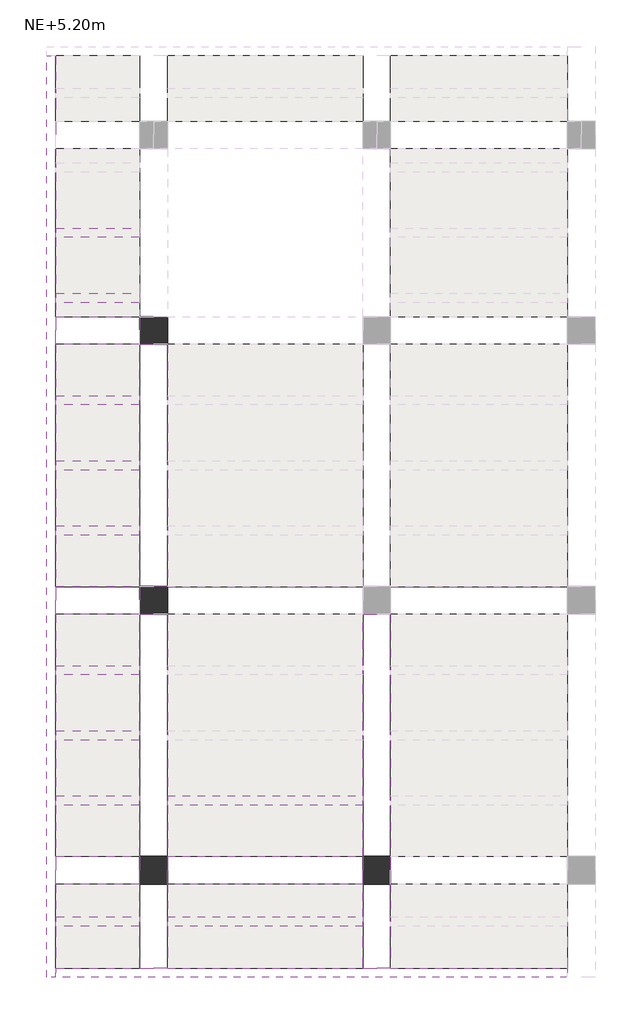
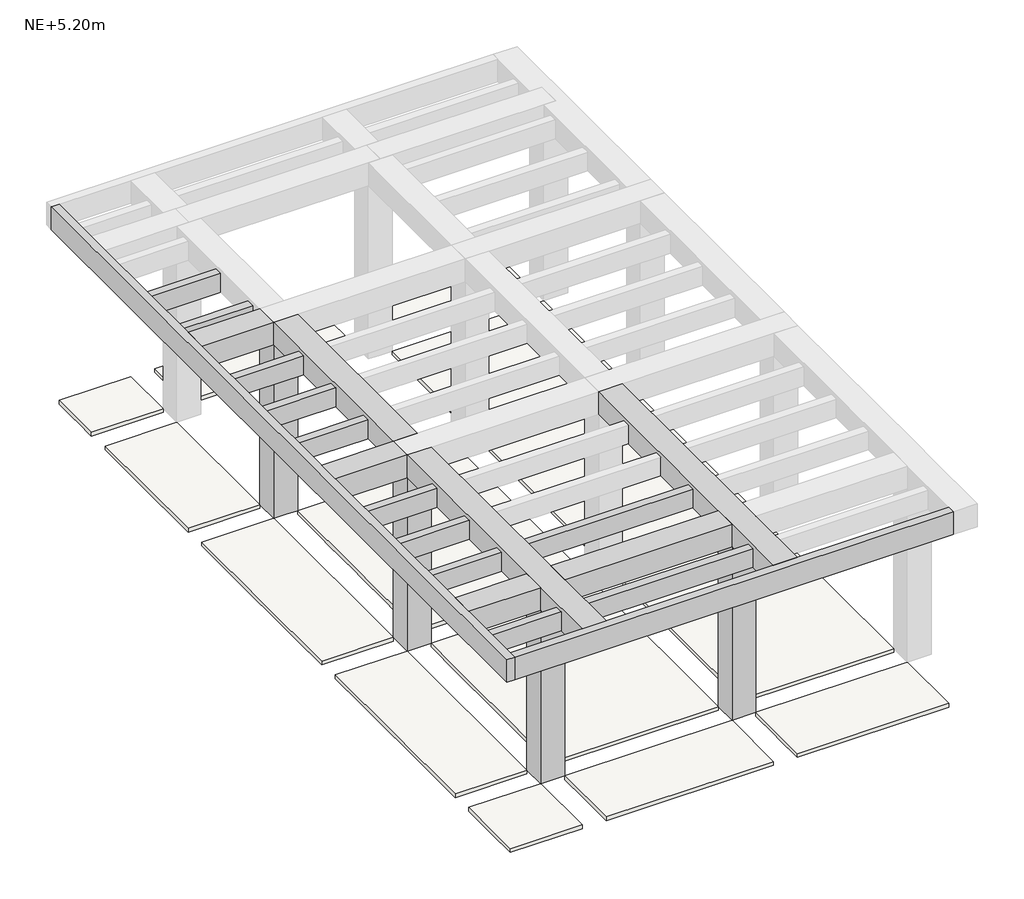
# One storey, part 1 of 2: 20 beams, 4 columns, 1 slab.
"""IFC4 building model written with IfcOpenShell, lengths in millimetres."""

import ifcopenshell
import ifcopenshell.guid

model = None  # the IFC model being written
_history = None  # IfcOwnerHistory: only IFC2X3 demands one
_inside = {}  # id of a spatial element -> (the spatial element, [elements in it])
_under = {}  # id of a project, library or spatial element -> (it, [spatial elements below it])
_declared = {}  # id of a project -> (the project, [libraries it declares])
_typed = {}  # id of a type object -> (the type object, [elements of that type])
_made_of = {}  # id of a material, layer set ... -> (it, [elements and type objects made of it])


def new_model(schema):
    """Start an empty IFC model of exactly this schema.

    Asked for "IFC4X3", IfcOpenShell would pick the latest addendum, in which some entities
    have other attributes; the version numbers below select the first issue.
    IFC2X3 requires an IfcOwnerHistory on every rooted entity: one is made here for all.
    """
    global model, _history
    if schema == "IFC4X3":
        model = ifcopenshell.file(schema_version=(4, 3, 0, 0))
    else:
        model = ifcopenshell.file(schema=schema)
    _inside.clear()
    _under.clear()
    _declared.clear()
    _typed.clear()
    _made_of.clear()
    _history = None
    if model.schema == "IFC2X3":
        org = make("IfcOrganization", Name="unknown")
        user = make(
            "IfcPersonAndOrganization",
            ThePerson=make("IfcPerson", FamilyName="unknown"),
            TheOrganization=org,
        )
        app = make(
            "IfcApplication",
            ApplicationDeveloper=org,
            Version="unknown",
            ApplicationFullName="unknown",
            ApplicationIdentifier="unknown",
        )
        _history = make(
            "IfcOwnerHistory",
            OwningUser=user,
            OwningApplication=app,
            ChangeAction="ADDED",
            CreationDate=0,
        )
    return model


def make(cls, **values):
    """One entity of the class cls with the attributes given. An attribute that is None is left unset."""
    return model.create_entity(
        cls, **{name: value for name, value in values.items() if value is not None}
    )


def rooted(cls, **values):
    """An entity with a GlobalId (a new one), such as an element, a storey or a relation."""
    return make(cls, GlobalId=ifcopenshell.guid.new(), OwnerHistory=_history, **values)


def si_unit(unit_type, name, prefix=None):
    """IfcSIUnit, for example si_unit("LENGTHUNIT", "METRE", prefix="MILLI")."""
    return make("IfcSIUnit", UnitType=unit_type, Prefix=prefix, Name=name)


def assignment(units):
    """IfcUnitAssignment: the units of a project."""
    return None if units is None else make("IfcUnitAssignment", Units=units)


def point(xyz):
    """IfcCartesianPoint."""
    return None if xyz is None else make("IfcCartesianPoint", Coordinates=xyz)


def direction(xyz):
    """IfcDirection."""
    return None if xyz is None else make("IfcDirection", DirectionRatios=xyz)


def frame(location, z_axis=None, x_axis=None):
    """IfcAxis2Placement3D, a coordinate frame: its origin and axes. An axis left out is left unset."""
    return make(
        "IfcAxis2Placement3D",
        Location=point(location),
        Axis=direction(z_axis),
        RefDirection=direction(x_axis),
    )


def origin():
    """The frame at (0, 0, 0) with its axes left unset."""
    return frame((0.0, 0.0, 0.0))


def place(relative_to, where):
    """IfcLocalPlacement: puts the frame where relative to a parent placement (None: the world)."""
    return make(
        "IfcLocalPlacement", PlacementRelTo=relative_to, RelativePlacement=where
    )


def context(
    kind, dimensions, precision=None, world=None, true_north=None, identifier=None
):
    """IfcGeometricRepresentationContext, for example the 3D "Model" context."""
    return make(
        "IfcGeometricRepresentationContext",
        ContextIdentifier=identifier,
        ContextType=kind,
        CoordinateSpaceDimension=dimensions,
        Precision=precision,
        WorldCoordinateSystem=world,
        TrueNorth=true_north,
    )


def project(units=None, contexts=None):
    """IfcProject with its units and contexts."""
    return rooted(
        "IfcProject",
        Name="project",
        RepresentationContexts=contexts,
        UnitsInContext=assignment(units),
    )


def spatial(cls, under=None, at=None, **own):
    """A site, building, storey or space (cls), placed at a placement, below another one or the project."""
    s = rooted(cls, ObjectPlacement=at, **own)
    if under is not None:
        _under.setdefault(under.id(), (under, []))[1].append(s)
    return s


def polyline(points):
    """IfcPolyline through the points."""
    return make("IfcPolyline", Points=[point(p) for p in points])


def outline(outer, holes=None, kind="AREA"):
    """IfcArbitraryClosedProfileDef: a profile drawn as a closed curve; with holes, ...WithVoids."""
    if holes is None:
        return make("IfcArbitraryClosedProfileDef", ProfileType=kind, OuterCurve=outer)
    return make(
        "IfcArbitraryProfileDefWithVoids",
        ProfileType=kind,
        OuterCurve=outer,
        InnerCurves=holes,
    )


def extrude(swept, where, along, depth):
    """IfcExtrudedAreaSolid: the profile swept, set in the frame where, extruded along a direction by depth."""
    return make(
        "IfcExtrudedAreaSolid",
        SweptArea=swept,
        Position=where,
        ExtrudedDirection=direction(along),
        Depth=depth,
    )


def faces_of(points, faces, orient=None, outer=None):
    """IfcFace entities. A face is a list of loops; a loop is a list of indices into points, from 0.

    orient and outer hold one flag for each loop. By default every Orientation is true, the
    first loop of a face is its IfcFaceOuterBound and the others are IfcFaceBound.
    """
    made = []
    for i, loops in enumerate(faces):
        bounds = []
        for j, loop in enumerate(loops):
            is_outer = j == 0 if outer is None else outer[i][j]
            bounds.append(
                make(
                    "IfcFaceOuterBound" if is_outer else "IfcFaceBound",
                    Bound=make("IfcPolyLoop", Polygon=[points[k] for k in loop]),
                    Orientation=True if orient is None else orient[i][j],
                )
            )
        made.append(make("IfcFace", Bounds=bounds))
    return made


def faceted_brep(points, faces, orient=None, outer=None, voids=None):
    """IfcFacetedBrep: a solid bounded by flat faces; with voids (closed shells), ...WithVoids."""
    shared = [point(p) for p in points]
    hull = make("IfcClosedShell", CfsFaces=faces_of(shared, faces, orient, outer))
    if voids is None:
        return make("IfcFacetedBrep", Outer=hull)
    return make(
        "IfcFacetedBrepWithVoids",
        Outer=hull,
        Voids=[
            make(cls, CfsFaces=faces_of(shared, fs, o, b)) for cls, fs, o, b in voids
        ],
    )


def shape(context_of_items, identifier, shape_type, items):
    """IfcShapeRepresentation: the items that make up one representation, for example the "Body"."""
    return make(
        "IfcShapeRepresentation",
        ContextOfItems=context_of_items,
        RepresentationIdentifier=identifier,
        RepresentationType=shape_type,
        Items=items,
    )


def made_of(thing, what):
    """Note that an element or type object is made of a material, layer set ...; save() writes the relation."""
    if what is not None:
        _made_of.setdefault(what.id(), (what, []))[1].append(thing)
    return thing


def element(
    cls,
    number,
    at=None,
    inside=None,
    cuts=None,
    type_object=None,
    material=None,
    context=None,
    identifier="Body",
    shape_type=None,
    held_by="IfcProductDefinitionShape",
    body=None,
    shapes=None,
    **own,
):
    """One element of the class cls, such as IfcWall. Its Tag is "e" and its number.

    at: its placement. inside: the storey or other place that contains it. cuts: it is an
    opening in that element (IfcRelVoidsElement). A single representation is given by context,
    identifier, shape_type and body (its items); several are given by shapes. held_by: the class
    of the entity that holds the representations. save() writes the other relations.
    """
    e = rooted(cls, Tag="e%d" % number, ObjectPlacement=at, **own)
    if body is not None:
        shapes = [shape(context, identifier, shape_type, body)]
    if shapes is not None:
        e.Representation = make(held_by, Representations=shapes)
    if inside is not None:
        _inside.setdefault(inside.id(), (inside, []))[1].append(e)
    if cuts is not None:
        rooted(
            "IfcRelVoidsElement", RelatingBuildingElement=cuts, RelatedOpeningElement=e
        )
    if type_object is not None:
        _typed.setdefault(type_object.id(), (type_object, []))[1].append(e)
    return made_of(e, material)


def aggregate(whole, parts):
    """IfcRelAggregates: a whole, such as a stair, and the parts it consists of."""
    return rooted("IfcRelAggregates", RelatingObject=whole, RelatedObjects=parts)


def save(model, path):
    """Write the relations noted so far, then the file.

    IfcRelAggregates (storeys below a building ...), IfcRelContainedInSpatialStructure (elements
    in a storey), IfcRelDefinesByType, IfcRelAssociatesMaterial and IfcRelDeclares: one each for
    every whole, place, type object, material and project.
    """
    for whole, parts in _under.values():
        aggregate(whole, parts)
    for where, things in _inside.values():
        rooted(
            "IfcRelContainedInSpatialStructure",
            RelatedElements=things,
            RelatingStructure=where,
        )
    for kind, things in _typed.values():
        rooted("IfcRelDefinesByType", RelatedObjects=things, RelatingType=kind)
    for what, things in _made_of.values():
        rooted("IfcRelAssociatesMaterial", RelatedObjects=things, RelatingMaterial=what)
    for by, libraries in _declared.values():
        rooted("IfcRelDeclares", RelatingContext=by, RelatedDefinitions=libraries)
    model.write(path)


model = new_model("IFC4")

# Units and contexts
model_context = context("Model", 3, world=origin())
ifc_project = project(units=[si_unit("LENGTHUNIT", "METRE", prefix="MILLI")], contexts=[model_context])

# Site, building, storey
site = spatial("IfcSite", under=ifc_project)
building = spatial("IfcBuilding", under=site)
storey = spatial("IfcBuildingStorey", under=building, Name="NE+5.20m", Elevation=5200.0)

# Beams
placement = place(None, origin())
element("IfcBeam", 1, ObjectType="Hormigón-Viga rectangular : VA (0.30x0.30m)", at=placement, inside=storey, context=model_context, shape_type="Brep", body=[
    faceted_brep([(-1047.6811082, -1337.1867862, 7800.0), (-1047.6811082, -1037.1867862, 7800.0), (-1947.6811082, -1037.1867862, 7800.0), (-1947.6811082, -1337.1867862, 7800.0), (-1047.6811082, -1037.1867862, 7750.0), (-1047.6811082, -1037.1867862, 7500.0), (-1947.6811082, -1037.1867862, 7500.0), (-1947.6811082, -1037.1867862, 7750.0), (-1047.6811082, -1337.1867862, 7500.0), (-1947.6811082, -1337.1867862, 7500.0), (-1947.6811082, -1337.1867862, 7750.0), (-1047.6811082, -1337.1867862, 7750.0)], [[[0, 1, 2, 3]], [[2, 1, 4, 5, 6, 7]], [[5, 8, 9, 6]], [[0, 3, 10, 9, 8, 11]], [[1, 0, 11, 8, 5, 4]], [[3, 2, 7, 6, 9, 10]]]),
])
element("IfcBeam", 2, ObjectType="Hormigón-Viga rectangular : VA (0.30x0.30m)", at=placement, inside=storey, context=model_context, shape_type="Brep", body=[
    faceted_brep([(-1047.6811082, -4237.1867862, 7800.0), (-1047.6811082, -3937.1867862, 7800.0), (-1947.6811082, -3937.1867862, 7800.0), (-1947.6811082, -4237.1867862, 7800.0), (-1047.6811082, -3937.1867862, 7750.0), (-1047.6811082, -3937.1867862, 7500.0), (-1947.6811082, -3937.1867862, 7500.0), (-1947.6811082, -3937.1867862, 7750.0), (-1047.6811082, -4237.1867862, 7500.0), (-1947.6811082, -4237.1867862, 7500.0), (-1947.6811082, -4237.1867862, 7750.0), (-1047.6811082, -4237.1867862, 7750.0)], [[[0, 1, 2, 3]], [[2, 1, 4, 5, 6, 7]], [[5, 8, 9, 6]], [[0, 3, 10, 9, 8, 11]], [[1, 0, 11, 8, 5, 4]], [[3, 2, 7, 6, 9, 10]]]),
])
element("IfcBeam", 3, ObjectType="Hormigón-Viga rectangular : VA (0.30x0.30m)", at=placement, inside=storey, context=model_context, shape_type="Brep", body=[
    faceted_brep([(1352.3188918, -7137.1867862, 7800.0), (1352.3188918, -6837.1867862, 7800.0), (-747.6811082, -6837.1867862, 7800.0), (-747.6811082, -7137.1867862, 7800.0), (1352.3188918, -6837.1867862, 7750.0), (1352.3188918, -6837.1867862, 7500.0), (-747.6811082, -6837.1867862, 7500.0), (-747.6811082, -6837.1867862, 7750.0), (1352.3188918, -7137.1867862, 7500.0), (-747.6811082, -7137.1867862, 7500.0), (-747.6811082, -7137.1867862, 7750.0), (1352.3188918, -7137.1867862, 7750.0)], [[[0, 1, 2, 3]], [[2, 1, 4, 5, 6, 7]], [[5, 8, 9, 6]], [[0, 3, 10, 9, 8, 11]], [[1, 0, 11, 8, 5, 4]], [[3, 2, 7, 6, 9, 10]]]),
])
element("IfcBeam", 4, ObjectType="Hormigón-Viga rectangular : VA (0.30x0.30m)", at=placement, inside=storey, context=model_context, shape_type="Brep", body=[
    faceted_brep([(-1047.6811082, -7137.1867862, 7800.0), (-1047.6811082, -6837.1867862, 7800.0), (-1947.6811082, -6837.1867862, 7800.0), (-1947.6811082, -7137.1867862, 7800.0), (-1047.6811082, -6837.1867862, 7750.0), (-1047.6811082, -6837.1867862, 7500.0), (-1947.6811082, -6837.1867862, 7500.0), (-1947.6811082, -6837.1867862, 7750.0), (-1047.6811082, -7137.1867862, 7500.0), (-1947.6811082, -7137.1867862, 7500.0), (-1947.6811082, -7137.1867862, 7750.0), (-1047.6811082, -7137.1867862, 7750.0)], [[[0, 1, 2, 3]], [[2, 1, 4, 5, 6, 7]], [[5, 8, 9, 6]], [[0, 3, 10, 9, 8, 11]], [[1, 0, 11, 8, 5, 4]], [[3, 2, 7, 6, 9, 10]]]),
])
element("IfcBeam", 5, ObjectType="Hormigón-Viga rectangular : VA (0.30x0.30m)", at=placement, inside=storey, context=model_context, shape_type="Brep", body=[
    faceted_brep([(1652.3188918, -4237.1867862, 7800.0), (1352.3188918, -4237.1867862, 7800.0), (1352.3188918, -6837.1867862, 7800.0), (1352.3188918, -7137.1867862, 7800.0), (1352.3188918, -8037.1867862, 7800.0), (1652.3188918, -8037.1867862, 7800.0), (1652.3188918, -7137.1867862, 7800.0), (1652.3188918, -6837.1867862, 7800.0), (1352.3188918, -4237.1867862, 7500.0), (1352.3188918, -4787.1867862, 7500.0), (1352.3188918, -4887.1867862, 7500.0), (1352.3188918, -5487.1867862, 7500.0), (1352.3188918, -5587.1867862, 7500.0), (1352.3188918, -6187.1867862, 7500.0), (1352.3188918, -6287.1867862, 7500.0), (1352.3188918, -6837.1867862, 7500.0), (1352.3188918, -7137.1867862, 7500.0), (1352.3188918, -7487.1867862, 7500.0), (1352.3188918, -7587.1867862, 7500.0), (1352.3188918, -8037.1867862, 7500.0), (1352.3188918, -8037.1867862, 7750.0), (1352.3188918, -4237.1867862, 7750.0), (1652.3188918, -4237.1867862, 7500.0), (1652.3188918, -4787.1867862, 7500.0), (1652.3188918, -4887.1867862, 7500.0), (1652.3188918, -5487.1867862, 7500.0), (1652.3188918, -5587.1867862, 7500.0), (1652.3188918, -6187.1867862, 7500.0), (1652.3188918, -6287.1867862, 7500.0), (1652.3188918, -6837.1867862, 7500.0), (1652.3188918, -7137.1867862, 7500.0), (1652.3188918, -7487.1867862, 7500.0), (1652.3188918, -7587.1867862, 7500.0), (1652.3188918, -8037.1867862, 7500.0), (1652.3188918, -4237.1867862, 7750.0), (1652.3188918, -8037.1867862, 7750.0)], [[[0, 1, 2, 3, 4, 5, 6, 7]], [[8, 9, 10, 11, 12, 13, 14, 15, 16, 17, 18, 19, 20, 4, 3, 2, 1, 21]], [[8, 22, 23, 24, 25, 26, 27, 28, 29, 30, 31, 32, 33, 19, 18, 17, 16, 15, 14, 13, 12, 11, 10, 9]], [[33, 32, 31, 30, 29, 28, 27, 26, 25, 24, 23, 22, 34, 0, 7, 6, 5, 35]], [[1, 0, 34, 22, 8, 21]], [[5, 4, 20, 19, 33, 35]]]),
])
element("IfcBeam", 6, ObjectType="Hormigón-Viga rectangular : VA (0.30x0.30m)", at=placement, inside=storey, context=model_context, shape_type="Brep", body=[
    faceted_brep([(-747.6811082, -1337.1867862, 7800.0), (-1047.6811082, -1337.1867862, 7800.0), (-1047.6811082, -3937.1867862, 7800.0), (-747.6811082, -3937.1867862, 7800.0), (-1047.6811082, -1337.1867862, 7750.0), (-1047.6811082, -1337.1867862, 7500.0), (-1047.6811082, -1887.1867862, 7500.0), (-1047.6811082, -1987.1867862, 7500.0), (-1047.6811082, -2587.1867862, 7500.0), (-1047.6811082, -2687.1867862, 7500.0), (-1047.6811082, -3287.1867862, 7500.0), (-1047.6811082, -3387.1867862, 7500.0), (-1047.6811082, -3937.1867862, 7500.0), (-1047.6811082, -3937.1867862, 7750.0), (-747.6811082, -1337.1867862, 7500.0), (-747.6811082, -1887.1867862, 7500.0), (-747.6811082, -1987.1867862, 7500.0), (-747.6811082, -2587.1867862, 7500.0), (-747.6811082, -2687.1867862, 7500.0), (-747.6811082, -3287.1867862, 7500.0), (-747.6811082, -3387.1867862, 7500.0), (-747.6811082, -3937.1867862, 7500.0), (-747.6811082, -3937.1867862, 7750.0), (-747.6811082, -1337.1867862, 7750.0)], [[[0, 1, 2, 3]], [[2, 1, 4, 5, 6, 7, 8, 9, 10, 11, 12, 13]], [[5, 14, 15, 16, 17, 18, 19, 20, 21, 12, 11, 10, 9, 8, 7, 6]], [[0, 3, 22, 21, 20, 19, 18, 17, 16, 15, 14, 23]], [[1, 0, 23, 14, 5, 4]], [[3, 2, 13, 12, 21, 22]]]),
])
element("IfcBeam", 7, ObjectType="Hormigón-Viga rectangular : VA (0.30x0.30m)", at=placement, inside=storey, context=model_context, shape_type="Brep", body=[
    faceted_brep([(-747.6811082, -4237.1867862, 7800.0), (-1047.6811082, -4237.1867862, 7800.0), (-1047.6811082, -6837.1867862, 7800.0), (-1047.6811082, -7137.1867862, 7800.0), (-1047.6811082, -8037.1867862, 7800.0), (-747.6811082, -8037.1867862, 7800.0), (-747.6811082, -7137.1867862, 7800.0), (-747.6811082, -6837.1867862, 7800.0), (-1047.6811082, -4237.1867862, 7500.0), (-1047.6811082, -4787.1867862, 7500.0), (-1047.6811082, -4887.1867862, 7500.0), (-1047.6811082, -5487.1867862, 7500.0), (-1047.6811082, -5587.1867862, 7500.0), (-1047.6811082, -6187.1867862, 7500.0), (-1047.6811082, -6287.1867862, 7500.0), (-1047.6811082, -6837.1867862, 7500.0), (-1047.6811082, -7137.1867862, 7500.0), (-1047.6811082, -7487.1867862, 7500.0), (-1047.6811082, -7587.1867862, 7500.0), (-1047.6811082, -8037.1867862, 7500.0), (-1047.6811082, -8037.1867862, 7750.0), (-1047.6811082, -4237.1867862, 7750.0), (-747.6811082, -4237.1867862, 7500.0), (-747.6811082, -4787.1867862, 7500.0), (-747.6811082, -4887.1867862, 7500.0), (-747.6811082, -5487.1867862, 7500.0), (-747.6811082, -5587.1867862, 7500.0), (-747.6811082, -6187.1867862, 7500.0), (-747.6811082, -6287.1867862, 7500.0), (-747.6811082, -6837.1867862, 7500.0), (-747.6811082, -7137.1867862, 7500.0), (-747.6811082, -7487.1867862, 7500.0), (-747.6811082, -7587.1867862, 7500.0), (-747.6811082, -8037.1867862, 7500.0), (-747.6811082, -4237.1867862, 7750.0), (-747.6811082, -8037.1867862, 7750.0)], [[[0, 1, 2, 3, 4, 5, 6, 7]], [[8, 9, 10, 11, 12, 13, 14, 15, 16, 17, 18, 19, 20, 4, 3, 2, 1, 21]], [[8, 22, 23, 24, 25, 26, 27, 28, 29, 30, 31, 32, 33, 19, 18, 17, 16, 15, 14, 13, 12, 11, 10, 9]], [[33, 32, 31, 30, 29, 28, 27, 26, 25, 24, 23, 22, 34, 0, 7, 6, 5, 35]], [[1, 0, 34, 22, 8, 21]], [[5, 4, 20, 19, 33, 35]]]),
])
element("IfcBeam", 8, ObjectType="Hormigón-Viga rectangular : VB (0.10x0.30m)", at=placement, inside=storey, context=model_context, shape_type="Brep", body=[
    faceted_brep([(-2047.6811082, -8137.1867862, 7800.0), (-1947.6811082, -8137.1867862, 7800.0), (-1947.6811082, -8037.1867862, 7800.0), (-1947.6811082, -7137.1867862, 7800.0), (-1947.6811082, -6837.1867862, 7800.0), (-1947.6811082, -4237.1867862, 7800.0), (-1947.6811082, -3937.1867862, 7800.0), (-1947.6811082, -1337.1867862, 7800.0), (-1947.6811082, -1037.1867862, 7800.0), (-1947.6811082, 762.8132138, 7800.0), (-1947.6811082, 1062.8132138, 7800.0), (-1947.6811082, 1762.8132138, 7800.0), (-2047.6811082, 1762.8132138, 7800.0), (-2047.6811082, -8137.1867862, 7500.0), (-2047.6811082, 1762.8132138, 7500.0), (-1947.6811082, -8137.1867862, 7500.0), (-1947.6811082, 1762.8132138, 7500.0), (-1947.6811082, 1412.8132138, 7500.0), (-1947.6811082, 1312.8132138, 7500.0), (-1947.6811082, 1062.8132138, 7500.0), (-1947.6811082, 762.8132138, 7500.0), (-1947.6811082, 612.8132138, 7500.0), (-1947.6811082, 512.8132138, 7500.0), (-1947.6811082, -87.1867862, 7500.0), (-1947.6811082, -187.1867862, 7500.0), (-1947.6811082, -787.1867862, 7500.0), (-1947.6811082, -887.1867862, 7500.0), (-1947.6811082, -1037.1867862, 7500.0), (-1947.6811082, -1337.1867862, 7500.0), (-1947.6811082, -1887.1867862, 7500.0), (-1947.6811082, -1987.1867862, 7500.0), (-1947.6811082, -2587.1867862, 7500.0), (-1947.6811082, -2687.1867862, 7500.0), (-1947.6811082, -3287.1867862, 7500.0), (-1947.6811082, -3387.1867862, 7500.0), (-1947.6811082, -3937.1867862, 7500.0), (-1947.6811082, -4237.1867862, 7500.0), (-1947.6811082, -4787.1867862, 7500.0), (-1947.6811082, -4887.1867862, 7500.0), (-1947.6811082, -5487.1867862, 7500.0), (-1947.6811082, -5587.1867862, 7500.0), (-1947.6811082, -6187.1867862, 7500.0), (-1947.6811082, -6287.1867862, 7500.0), (-1947.6811082, -6837.1867862, 7500.0), (-1947.6811082, -7137.1867862, 7500.0), (-1947.6811082, -7487.1867862, 7500.0), (-1947.6811082, -7587.1867862, 7500.0), (-1947.6811082, -8037.1867862, 7500.0), (-1947.6811082, 1762.8132138, 7750.0)], [[[0, 1, 2, 3, 4, 5, 6, 7, 8, 9, 10, 11, 12]], [[13, 0, 12, 14]], [[15, 13, 14, 16, 17, 18, 19, 20, 21, 22, 23, 24, 25, 26, 27, 28, 29, 30, 31, 32, 33, 34, 35, 36, 37, 38, 39, 40, 41, 42, 43, 44, 45, 46, 47]], [[1, 15, 47, 46, 45, 44, 43, 42, 41, 40, 39, 38, 37, 36, 35, 34, 33, 32, 31, 30, 29, 28, 27, 26, 25, 24, 23, 22, 21, 20, 19, 18, 17, 16, 48, 11, 10, 9, 8, 7, 6, 5, 4, 3, 2]], [[12, 11, 48, 16, 14]], [[1, 0, 13, 15]]]),
])
element("IfcBeam", 9, ObjectType="Hormigón-Viga rectangular : VB (0.10x0.30m)", at=placement, inside=storey, context=model_context, shape_type="Brep", body=[
    faceted_brep([(-1947.6811082, -8037.1867862, 7800.0), (-1947.6811082, -8137.1867862, 7800.0), (3552.3188918, -8137.1867862, 7800.0), (3552.3188918, -8037.1867862, 7800.0), (1652.3188918, -8037.1867862, 7800.0), (1352.3188918, -8037.1867862, 7800.0), (-747.6811082, -8037.1867862, 7800.0), (-1047.6811082, -8037.1867862, 7800.0), (-1947.6811082, -8137.1867862, 7500.0), (3552.3188918, -8137.1867862, 7500.0), (-1947.6811082, -8037.1867862, 7500.0), (-1047.6811082, -8037.1867862, 7500.0), (-747.6811082, -8037.1867862, 7500.0), (1352.3188918, -8037.1867862, 7500.0), (1652.3188918, -8037.1867862, 7500.0), (3552.3188918, -8037.1867862, 7500.0), (-1947.6811082, -8037.1867862, 7750.0), (3552.3188918, -8037.1867862, 7750.0)], [[[0, 1, 2, 3, 4, 5, 6, 7]], [[1, 8, 9, 2]], [[8, 10, 11, 12, 13, 14, 15, 9]], [[10, 16, 0, 7, 6, 5, 4, 3, 17, 15, 14, 13, 12, 11]], [[1, 0, 16, 10, 8]], [[3, 2, 9, 15, 17]]]),
])
element("IfcBeam", 10, ObjectType="Hormigón-Viga rectangular : VT (0.10x0.30m)", at=placement, inside=storey, context=model_context, shape_type="SweptSolid", body=[
    extrude(outline(polyline([(1352.3188918, -7487.1867862), (1352.3188918, -7587.1867862), (-747.6811082, -7587.1867862), (-747.6811082, -7487.1867862), (1352.3188918, -7487.1867862)])), frame((0.0, 0.0, 7500.0), z_axis=(0.0, 0.0, 1.0), x_axis=(1.0, 0.0, 0.0)), (0.0, 0.0, 1.0), 250.0),
])
element("IfcBeam", 11, ObjectType="Hormigón-Viga rectangular : VT (0.10x0.30m)", at=placement, inside=storey, context=model_context, shape_type="SweptSolid", body=[
    extrude(outline(polyline([(-1047.6811082, -7487.1867862), (-1047.6811082, -7587.1867862), (-1947.6811082, -7587.1867862), (-1947.6811082, -7487.1867862), (-1047.6811082, -7487.1867862)])), frame((0.0, 0.0, 7500.0), z_axis=(0.0, 0.0, 1.0), x_axis=(1.0, 0.0, 0.0)), (0.0, 0.0, 1.0), 250.0),
])
element("IfcBeam", 12, ObjectType="Hormigón-Viga rectangular : VT (0.10x0.30m)", at=placement, inside=storey, context=model_context, shape_type="SweptSolid", body=[
    extrude(outline(polyline([(1352.3188918, -6187.1867862), (1352.3188918, -6287.1867862), (-747.6811082, -6287.1867862), (-747.6811082, -6187.1867862), (1352.3188918, -6187.1867862)])), frame((0.0, 0.0, 7500.0), z_axis=(0.0, 0.0, 1.0), x_axis=(1.0, 0.0, 0.0)), (0.0, 0.0, 1.0), 250.0),
])
element("IfcBeam", 13, ObjectType="Hormigón-Viga rectangular : VT (0.10x0.30m)", at=placement, inside=storey, context=model_context, shape_type="SweptSolid", body=[
    extrude(outline(polyline([(-1047.6811082, -6187.1867862), (-1047.6811082, -6287.1867862), (-1947.6811082, -6287.1867862), (-1947.6811082, -6187.1867862), (-1047.6811082, -6187.1867862)])), frame((0.0, 0.0, 7500.0), z_axis=(0.0, 0.0, 1.0), x_axis=(1.0, 0.0, 0.0)), (0.0, 0.0, 1.0), 250.0),
])
element("IfcBeam", 14, ObjectType="Hormigón-Viga rectangular : VT (0.10x0.30m)", at=placement, inside=storey, context=model_context, shape_type="SweptSolid", body=[
    extrude(outline(polyline([(-1047.6811082, -5487.1867862), (-1047.6811082, -5587.1867862), (-1947.6811082, -5587.1867862), (-1947.6811082, -5487.1867862), (-1047.6811082, -5487.1867862)])), frame((0.0, 0.0, 7500.0), z_axis=(0.0, 0.0, 1.0), x_axis=(1.0, 0.0, 0.0)), (0.0, 0.0, 1.0), 250.0),
])
element("IfcBeam", 15, ObjectType="Hormigón-Viga rectangular : VT (0.10x0.30m)", at=placement, inside=storey, context=model_context, shape_type="SweptSolid", body=[
    extrude(outline(polyline([(-1047.6811082, -4787.1867862), (-1047.6811082, -4887.1867862), (-1947.6811082, -4887.1867862), (-1947.6811082, -4787.1867862), (-1047.6811082, -4787.1867862)])), frame((0.0, 0.0, 7500.0), z_axis=(0.0, 0.0, 1.0), x_axis=(1.0, 0.0, 0.0)), (0.0, 0.0, 1.0), 250.0),
])
element("IfcBeam", 16, ObjectType="Hormigón-Viga rectangular : VT (0.10x0.30m)", at=placement, inside=storey, context=model_context, shape_type="SweptSolid", body=[
    extrude(outline(polyline([(-1047.6811082, -3287.1867862), (-1047.6811082, -3387.1867862), (-1947.6811082, -3387.1867862), (-1947.6811082, -3287.1867862), (-1047.6811082, -3287.1867862)])), frame((0.0, 0.0, 7500.0), z_axis=(0.0, 0.0, 1.0), x_axis=(1.0, 0.0, 0.0)), (0.0, 0.0, 1.0), 250.0),
])
element("IfcBeam", 17, ObjectType="Hormigón-Viga rectangular : VT (0.10x0.30m)", at=placement, inside=storey, context=model_context, shape_type="SweptSolid", body=[
    extrude(outline(polyline([(-1047.6811082, -2587.1867862), (-1047.6811082, -2687.1867862), (-1947.6811082, -2687.1867862), (-1947.6811082, -2587.1867862), (-1047.6811082, -2587.1867862)])), frame((0.0, 0.0, 7500.0), z_axis=(0.0, 0.0, 1.0), x_axis=(1.0, 0.0, 0.0)), (0.0, 0.0, 1.0), 250.0),
])
element("IfcBeam", 18, ObjectType="Hormigón-Viga rectangular : VT (0.10x0.30m)", at=placement, inside=storey, context=model_context, shape_type="SweptSolid", body=[
    extrude(outline(polyline([(-1047.6811082, -1887.1867862), (-1047.6811082, -1987.1867862), (-1947.6811082, -1987.1867862), (-1947.6811082, -1887.1867862), (-1047.6811082, -1887.1867862)])), frame((0.0, 0.0, 7500.0), z_axis=(0.0, 0.0, 1.0), x_axis=(1.0, 0.0, 0.0)), (0.0, 0.0, 1.0), 250.0),
])
element("IfcBeam", 19, ObjectType="Hormigón-Viga rectangular : VT (0.10x0.30m)", at=placement, inside=storey, context=model_context, shape_type="SweptSolid", body=[
    extrude(outline(polyline([(-1047.6811082, -787.1867862), (-1047.6811082, -887.1867862), (-1947.6811082, -887.1867862), (-1947.6811082, -787.1867862), (-1047.6811082, -787.1867862)])), frame((0.0, 0.0, 7500.0), z_axis=(0.0, 0.0, 1.0), x_axis=(1.0, 0.0, 0.0)), (0.0, 0.0, 1.0), 250.0),
])
element("IfcBeam", 20, ObjectType="Hormigón-Viga rectangular : VT (0.10x0.30m)", at=placement, inside=storey, context=model_context, shape_type="SweptSolid", body=[
    extrude(outline(polyline([(-1047.6811082, -87.1867862), (-1047.6811082, -187.1867862), (-1947.6811082, -187.1867862), (-1947.6811082, -87.1867862), (-1047.6811082, -87.1867862)])), frame((0.0, 0.0, 7500.0), z_axis=(0.0, 0.0, 1.0), x_axis=(1.0, 0.0, 0.0)), (0.0, 0.0, 1.0), 250.0),
])

# Columns
element("IfcColumn", 21, ObjectType="Hormigón-Rectangular-Pilar : C1 (0.30x0.30m)", at=placement, inside=storey, context=model_context, shape_type="Brep", body=[
    faceted_brep([(-747.6811082, -1037.1867862, 5200.0), (-747.6811082, -1337.1867862, 5200.0), (-897.6811082, -1337.1867862, 5200.0), (-1047.6811082, -1337.1867862, 5200.0), (-1047.6811082, -1037.1867862, 5200.0), (-897.6811082, -1037.1867862, 5200.0), (-747.6811082, -1037.1867862, 7500.0), (-747.6811082, -1337.1867862, 7500.0), (-1047.6811082, -1337.1867862, 7500.0), (-1047.6811082, -1037.1867862, 7500.0)], [[[0, 1, 2, 3, 4, 5]], [[6, 7, 1, 0]], [[7, 8, 3, 2, 1]], [[8, 9, 4, 3]], [[9, 6, 0, 5, 4]], [[6, 9, 8, 7]]]),
])
element("IfcColumn", 22, ObjectType="Hormigón-Rectangular-Pilar : C1 (0.30x0.30m)", at=placement, inside=storey, context=model_context, shape_type="SweptSolid", body=[
    extrude(outline(polyline([(-747.6811082, -3937.1867862), (-747.6811082, -4237.1867862), (-1047.6811082, -4237.1867862), (-1047.6811082, -3937.1867862), (-747.6811082, -3937.1867862)])), frame((0.0, 0.0, 5200.0), z_axis=(0.0, 0.0, 1.0), x_axis=(1.0, 0.0, 0.0)), (0.0, 0.0, 1.0), 2300.0),
])
element("IfcColumn", 23, ObjectType="Hormigón-Rectangular-Pilar : C1 (0.30x0.30m)", at=placement, inside=storey, context=model_context, shape_type="SweptSolid", body=[
    extrude(outline(polyline([(-747.6811082, -6837.1867862), (-747.6811082, -7137.1867862), (-1047.6811082, -7137.1867862), (-1047.6811082, -6837.1867862), (-747.6811082, -6837.1867862)])), frame((0.0, 0.0, 5200.0), z_axis=(0.0, 0.0, 1.0), x_axis=(1.0, 0.0, 0.0)), (0.0, 0.0, 1.0), 2300.0),
])
element("IfcColumn", 24, ObjectType="Hormigón-Rectangular-Pilar : C1 (0.30x0.30m)", at=placement, inside=storey, context=model_context, shape_type="SweptSolid", body=[
    extrude(outline(polyline([(1652.3188918, -6837.1867862), (1652.3188918, -7137.1867862), (1352.3188918, -7137.1867862), (1352.3188918, -6837.1867862), (1652.3188918, -6837.1867862)])), frame((0.0, 0.0, 5200.0), z_axis=(0.0, 0.0, 1.0), x_axis=(1.0, 0.0, 0.0)), (0.0, 0.0, 1.0), 2300.0),
])

# Slab
element("IfcSlab", 25, ObjectType="Torta superior e=5cm", at=placement, inside=storey, context=model_context, shape_type="Brep", body=[
    faceted_brep([(-1047.6811082, 1762.8132138, 5150.0), (-1047.6811082, 1462.8132138, 5150.0), (-1047.6811082, 1362.8132138, 5150.0), (-1047.6811082, 1062.8132138, 5150.0), (-1947.6811082, 1062.8132138, 5150.0), (-1947.6811082, 1362.8132138, 5150.0), (-1947.6811082, 1462.8132138, 5150.0), (-1947.6811082, 1762.8132138, 5150.0), (-1047.6811082, 1762.8132138, 5200.0), (-1947.6811082, 1762.8132138, 5200.0), (-1947.6811082, 1062.8132138, 5200.0), (-1047.6811082, 1062.8132138, 5200.0)], [[[0, 1, 2, 3, 4, 5, 6, 7]], [[8, 9, 10, 11]], [[3, 2, 1, 0, 8, 11]], [[4, 3, 11, 10]], [[7, 6, 5, 4, 10, 9]], [[0, 7, 9, 8]]]),
    faceted_brep([(1352.3188918, 1762.8132138, 5150.0), (1352.3188918, 1462.8132138, 5150.0), (1352.3188918, 1362.8132138, 5150.0), (1352.3188918, 1062.8132138, 5150.0), (-747.6811082, 1062.8132138, 5150.0), (-747.6811082, 1362.8132138, 5150.0), (-747.6811082, 1462.8132138, 5150.0), (-747.6811082, 1762.8132138, 5150.0), (1352.3188918, 1762.8132138, 5200.0), (-747.6811082, 1762.8132138, 5200.0), (-747.6811082, 1062.8132138, 5200.0), (1352.3188918, 1062.8132138, 5200.0)], [[[0, 1, 2, 3, 4, 5, 6, 7]], [[8, 9, 10, 11]], [[3, 2, 1, 0, 8, 11]], [[4, 3, 11, 10]], [[7, 6, 5, 4, 10, 9]], [[0, 7, 9, 8]]]),
    faceted_brep([(3552.3188918, 1762.8132138, 5150.0), (3552.3188918, 1462.8132138, 5150.0), (3552.3188918, 1362.8132138, 5150.0), (3552.3188918, 1062.8132138, 5150.0), (1652.3188918, 1062.8132138, 5150.0), (1652.3188918, 1362.8132138, 5150.0), (1652.3188918, 1462.8132138, 5150.0), (1652.3188918, 1762.8132138, 5150.0), (3552.3188918, 1762.8132138, 5200.0), (1652.3188918, 1762.8132138, 5200.0), (1652.3188918, 1062.8132138, 5200.0), (3552.3188918, 1062.8132138, 5200.0)], [[[0, 1, 2, 3, 4, 5, 6, 7]], [[8, 9, 10, 11]], [[3, 2, 1, 0, 8, 11]], [[4, 3, 11, 10]], [[7, 6, 5, 4, 10, 9]], [[0, 7, 9, 8]]]),
    faceted_brep([(3552.3188918, 762.8132138, 5150.0), (3552.3188918, 612.8132138, 5150.0), (3552.3188918, 512.8132138, 5150.0), (3552.3188918, -87.1867862, 5150.0), (3552.3188918, -187.1867862, 5150.0), (3552.3188918, -787.1867862, 5150.0), (3552.3188918, -887.1867862, 5150.0), (3552.3188918, -1037.1867862, 5150.0), (1652.3188918, -1037.1867862, 5150.0), (1652.3188918, -887.1867862, 5150.0), (1652.3188918, -787.1867862, 5150.0), (1652.3188918, -187.1867862, 5150.0), (1652.3188918, -87.1867862, 5150.0), (1652.3188918, 512.8132138, 5150.0), (1652.3188918, 612.8132138, 5150.0), (1652.3188918, 762.8132138, 5150.0), (3552.3188918, 762.8132138, 5200.0), (1652.3188918, 762.8132138, 5200.0), (1652.3188918, -1037.1867862, 5200.0), (3552.3188918, -1037.1867862, 5200.0)], [[[0, 1, 2, 3, 4, 5, 6, 7, 8, 9, 10, 11, 12, 13, 14, 15]], [[16, 17, 18, 19]], [[7, 6, 5, 4, 3, 2, 1, 0, 16, 19]], [[8, 7, 19, 18]], [[15, 14, 13, 12, 11, 10, 9, 8, 18, 17]], [[0, 15, 17, 16]]]),
    faceted_brep([(-1047.6811082, 762.8132138, 5150.0), (-1047.6811082, 612.8132138, 5150.0), (-1047.6811082, 512.8132138, 5150.0), (-1047.6811082, -87.1867862, 5150.0), (-1047.6811082, -187.1867862, 5150.0), (-1047.6811082, -787.1867862, 5150.0), (-1047.6811082, -887.1867862, 5150.0), (-1047.6811082, -1037.1867862, 5150.0), (-1947.6811082, -1037.1867862, 5150.0), (-1947.6811082, -887.1867862, 5150.0), (-1947.6811082, -787.1867862, 5150.0), (-1947.6811082, -187.1867862, 5150.0), (-1947.6811082, -87.1867862, 5150.0), (-1947.6811082, 512.8132138, 5150.0), (-1947.6811082, 612.8132138, 5150.0), (-1947.6811082, 762.8132138, 5150.0), (-1047.6811082, 762.8132138, 5200.0), (-1947.6811082, 762.8132138, 5200.0), (-1947.6811082, -1037.1867862, 5200.0), (-1047.6811082, -1037.1867862, 5200.0)], [[[0, 1, 2, 3, 4, 5, 6, 7, 8, 9, 10, 11, 12, 13, 14, 15]], [[16, 17, 18, 19]], [[7, 6, 5, 4, 3, 2, 1, 0, 16, 19]], [[8, 7, 19, 18]], [[15, 14, 13, 12, 11, 10, 9, 8, 18, 17]], [[0, 15, 17, 16]]]),
    faceted_brep([(-1047.6811082, -1337.1867862, 5150.0), (-1047.6811082, -1887.1867862, 5150.0), (-1047.6811082, -1987.1867862, 5150.0), (-1047.6811082, -2587.1867862, 5150.0), (-1047.6811082, -2687.1867862, 5150.0), (-1047.6811082, -3287.1867862, 5150.0), (-1047.6811082, -3387.1867862, 5150.0), (-1047.6811082, -3937.1867862, 5150.0), (-1947.6811082, -3937.1867862, 5150.0), (-1947.6811082, -3387.1867862, 5150.0), (-1947.6811082, -3287.1867862, 5150.0), (-1947.6811082, -2687.1867862, 5150.0), (-1947.6811082, -2587.1867862, 5150.0), (-1947.6811082, -1987.1867862, 5150.0), (-1947.6811082, -1887.1867862, 5150.0), (-1947.6811082, -1337.1867862, 5150.0), (-1047.6811082, -1337.1867862, 5200.0), (-1947.6811082, -1337.1867862, 5200.0), (-1947.6811082, -3937.1867862, 5200.0), (-1047.6811082, -3937.1867862, 5200.0)], [[[0, 1, 2, 3, 4, 5, 6, 7, 8, 9, 10, 11, 12, 13, 14, 15]], [[16, 17, 18, 19]], [[7, 6, 5, 4, 3, 2, 1, 0, 16, 19]], [[8, 7, 19, 18]], [[15, 14, 13, 12, 11, 10, 9, 8, 18, 17]], [[0, 15, 17, 16]]]),
    faceted_brep([(1352.3188918, -1337.1867862, 5150.0), (1352.3188918, -1887.1867862, 5150.0), (1352.3188918, -1987.1867862, 5150.0), (1352.3188918, -2587.1867862, 5150.0), (1352.3188918, -2687.1867862, 5150.0), (1352.3188918, -3287.1867862, 5150.0), (1352.3188918, -3387.1867862, 5150.0), (1352.3188918, -3937.1867862, 5150.0), (-747.6811082, -3937.1867862, 5150.0), (-747.6811082, -3387.1867862, 5150.0), (-747.6811082, -3287.1867862, 5150.0), (-747.6811082, -2687.1867862, 5150.0), (-747.6811082, -2587.1867862, 5150.0), (-747.6811082, -1987.1867862, 5150.0), (-747.6811082, -1887.1867862, 5150.0), (-747.6811082, -1337.1867862, 5150.0), (1352.3188918, -1337.1867862, 5200.0), (-747.6811082, -1337.1867862, 5200.0), (-747.6811082, -3937.1867862, 5200.0), (1352.3188918, -3937.1867862, 5200.0)], [[[0, 1, 2, 3, 4, 5, 6, 7, 8, 9, 10, 11, 12, 13, 14, 15]], [[16, 17, 18, 19]], [[7, 6, 5, 4, 3, 2, 1, 0, 16, 19]], [[8, 7, 19, 18]], [[15, 14, 13, 12, 11, 10, 9, 8, 18, 17]], [[0, 15, 17, 16]]]),
    faceted_brep([(3552.3188918, -1337.1867862, 5150.0), (3552.3188918, -1887.1867862, 5150.0), (3552.3188918, -1987.1867862, 5150.0), (3552.3188918, -2587.1867862, 5150.0), (3552.3188918, -2687.1867862, 5150.0), (3552.3188918, -3287.1867862, 5150.0), (3552.3188918, -3387.1867862, 5150.0), (3552.3188918, -3937.1867862, 5150.0), (1652.3188918, -3937.1867862, 5150.0), (1652.3188918, -3387.1867862, 5150.0), (1652.3188918, -3287.1867862, 5150.0), (1652.3188918, -2687.1867862, 5150.0), (1652.3188918, -2587.1867862, 5150.0), (1652.3188918, -1987.1867862, 5150.0), (1652.3188918, -1887.1867862, 5150.0), (1652.3188918, -1337.1867862, 5150.0), (3552.3188918, -1337.1867862, 5200.0), (1652.3188918, -1337.1867862, 5200.0), (1652.3188918, -3937.1867862, 5200.0), (3552.3188918, -3937.1867862, 5200.0)], [[[0, 1, 2, 3, 4, 5, 6, 7, 8, 9, 10, 11, 12, 13, 14, 15]], [[16, 17, 18, 19]], [[7, 6, 5, 4, 3, 2, 1, 0, 16, 19]], [[8, 7, 19, 18]], [[15, 14, 13, 12, 11, 10, 9, 8, 18, 17]], [[0, 15, 17, 16]]]),
    faceted_brep([(-1047.6811082, -4237.1867862, 5150.0), (-1047.6811082, -4787.1867862, 5150.0), (-1047.6811082, -4887.1867862, 5150.0), (-1047.6811082, -5487.1867862, 5150.0), (-1047.6811082, -5587.1867862, 5150.0), (-1047.6811082, -6187.1867862, 5150.0), (-1047.6811082, -6287.1867862, 5150.0), (-1047.6811082, -6837.1867862, 5150.0), (-1947.6811082, -6837.1867862, 5150.0), (-1947.6811082, -6287.1867862, 5150.0), (-1947.6811082, -6187.1867862, 5150.0), (-1947.6811082, -5587.1867862, 5150.0), (-1947.6811082, -5487.1867862, 5150.0), (-1947.6811082, -4887.1867862, 5150.0), (-1947.6811082, -4787.1867862, 5150.0), (-1947.6811082, -4237.1867862, 5150.0), (-1047.6811082, -4237.1867862, 5200.0), (-1947.6811082, -4237.1867862, 5200.0), (-1947.6811082, -6837.1867862, 5200.0), (-1047.6811082, -6837.1867862, 5200.0)], [[[0, 1, 2, 3, 4, 5, 6, 7, 8, 9, 10, 11, 12, 13, 14, 15]], [[16, 17, 18, 19]], [[7, 6, 5, 4, 3, 2, 1, 0, 16, 19]], [[8, 7, 19, 18]], [[15, 14, 13, 12, 11, 10, 9, 8, 18, 17]], [[0, 15, 17, 16]]]),
    faceted_brep([(1352.3188918, -4237.1867862, 5150.0), (1352.3188918, -4787.1867862, 5150.0), (1352.3188918, -4887.1867862, 5150.0), (1352.3188918, -5487.1867862, 5150.0), (1352.3188918, -5587.1867862, 5150.0), (1352.3188918, -6187.1867862, 5150.0), (1352.3188918, -6287.1867862, 5150.0), (1352.3188918, -6837.1867862, 5150.0), (-747.6811082, -6837.1867862, 5150.0), (-747.6811082, -6287.1867862, 5150.0), (-747.6811082, -6187.1867862, 5150.0), (-747.6811082, -5587.1867862, 5150.0), (-747.6811082, -5487.1867862, 5150.0), (-747.6811082, -4887.1867862, 5150.0), (-747.6811082, -4787.1867862, 5150.0), (-747.6811082, -4237.1867862, 5150.0), (1352.3188918, -4237.1867862, 5200.0), (-747.6811082, -4237.1867862, 5200.0), (-747.6811082, -6837.1867862, 5200.0), (1352.3188918, -6837.1867862, 5200.0)], [[[0, 1, 2, 3, 4, 5, 6, 7, 8, 9, 10, 11, 12, 13, 14, 15]], [[16, 17, 18, 19]], [[7, 6, 5, 4, 3, 2, 1, 0, 16, 19]], [[8, 7, 19, 18]], [[15, 14, 13, 12, 11, 10, 9, 8, 18, 17]], [[0, 15, 17, 16]]]),
    faceted_brep([(3552.3188918, -4237.1867862, 5150.0), (3552.3188918, -4787.1867862, 5150.0), (3552.3188918, -4887.1867862, 5150.0), (3552.3188918, -5487.1867862, 5150.0), (3552.3188918, -5587.1867862, 5150.0), (3552.3188918, -6187.1867862, 5150.0), (3552.3188918, -6287.1867862, 5150.0), (3552.3188918, -6837.1867862, 5150.0), (1652.3188918, -6837.1867862, 5150.0), (1652.3188918, -6287.1867862, 5150.0), (1652.3188918, -6187.1867862, 5150.0), (1652.3188918, -5587.1867862, 5150.0), (1652.3188918, -5487.1867862, 5150.0), (1652.3188918, -4887.1867862, 5150.0), (1652.3188918, -4787.1867862, 5150.0), (1652.3188918, -4237.1867862, 5150.0), (3552.3188918, -4237.1867862, 5200.0), (1652.3188918, -4237.1867862, 5200.0), (1652.3188918, -6837.1867862, 5200.0), (3552.3188918, -6837.1867862, 5200.0)], [[[0, 1, 2, 3, 4, 5, 6, 7, 8, 9, 10, 11, 12, 13, 14, 15]], [[16, 17, 18, 19]], [[7, 6, 5, 4, 3, 2, 1, 0, 16, 19]], [[8, 7, 19, 18]], [[15, 14, 13, 12, 11, 10, 9, 8, 18, 17]], [[0, 15, 17, 16]]]),
    faceted_brep([(-1047.6811082, -7137.1867862, 5150.0), (-1047.6811082, -7537.1867862, 5150.0), (-1047.6811082, -7637.1867862, 5150.0), (-1047.6811082, -8037.1867862, 5150.0), (-1947.6811082, -8037.1867862, 5150.0), (-1947.6811082, -7637.1867862, 5150.0), (-1947.6811082, -7537.1867862, 5150.0), (-1947.6811082, -7137.1867862, 5150.0), (-1047.6811082, -7137.1867862, 5200.0), (-1947.6811082, -7137.1867862, 5200.0), (-1947.6811082, -8037.1867862, 5200.0), (-1047.6811082, -8037.1867862, 5200.0)], [[[0, 1, 2, 3, 4, 5, 6, 7]], [[8, 9, 10, 11]], [[3, 2, 1, 0, 8, 11]], [[4, 3, 11, 10]], [[7, 6, 5, 4, 10, 9]], [[0, 7, 9, 8]]]),
    faceted_brep([(1352.3188918, -7137.1867862, 5150.0), (1352.3188918, -7537.1867862, 5150.0), (1352.3188918, -7637.1867862, 5150.0), (1352.3188918, -8037.1867862, 5150.0), (-747.6811082, -8037.1867862, 5150.0), (-747.6811082, -7637.1867862, 5150.0), (-747.6811082, -7537.1867862, 5150.0), (-747.6811082, -7137.1867862, 5150.0), (1352.3188918, -7137.1867862, 5200.0), (-747.6811082, -7137.1867862, 5200.0), (-747.6811082, -8037.1867862, 5200.0), (1352.3188918, -8037.1867862, 5200.0)], [[[0, 1, 2, 3, 4, 5, 6, 7]], [[8, 9, 10, 11]], [[3, 2, 1, 0, 8, 11]], [[4, 3, 11, 10]], [[7, 6, 5, 4, 10, 9]], [[0, 7, 9, 8]]]),
    faceted_brep([(3552.3188918, -7137.1867862, 5150.0), (3552.3188918, -7537.1867862, 5150.0), (3552.3188918, -7637.1867862, 5150.0), (3552.3188918, -8037.1867862, 5150.0), (1652.3188918, -8037.1867862, 5150.0), (1652.3188918, -7637.1867862, 5150.0), (1652.3188918, -7537.1867862, 5150.0), (1652.3188918, -7137.1867862, 5150.0), (3552.3188918, -7137.1867862, 5200.0), (1652.3188918, -7137.1867862, 5200.0), (1652.3188918, -8037.1867862, 5200.0), (3552.3188918, -8037.1867862, 5200.0)], [[[0, 1, 2, 3, 4, 5, 6, 7]], [[8, 9, 10, 11]], [[3, 2, 1, 0, 8, 11]], [[4, 3, 11, 10]], [[7, 6, 5, 4, 10, 9]], [[0, 7, 9, 8]]]),
])

save(model, "model.ifc")
